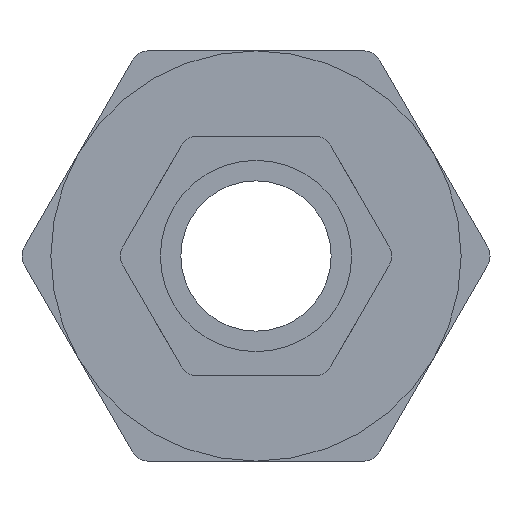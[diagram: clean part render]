
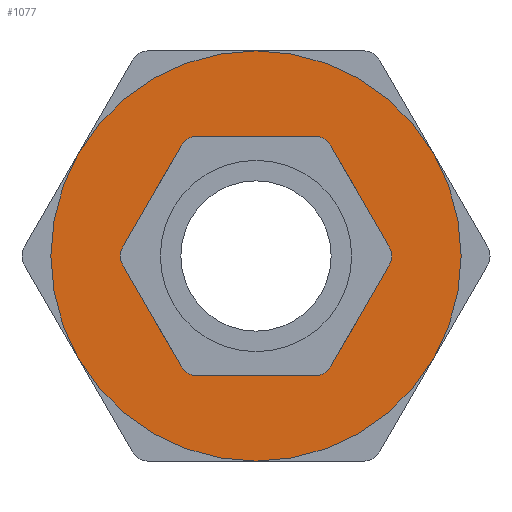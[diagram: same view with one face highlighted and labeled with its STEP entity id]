
A CAD part, left-side view. The second image highlights one B-rep face of the part: STEP entity #1077.
In plain terms, the highlighted planar face has unit normal (-1, 0, 0).
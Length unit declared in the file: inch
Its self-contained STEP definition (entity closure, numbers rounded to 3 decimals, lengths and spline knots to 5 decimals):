
#14=FACE_BOUND('',#184,.T.);
#62=CIRCLE('',#1176,1.125);
#63=CIRCLE('',#1177,0.6575);
#124=FACE_OUTER_BOUND('',#183,.T.);
#183=EDGE_LOOP('',(#738));
#184=EDGE_LOOP('',(#739));
#439=VERTEX_POINT('',#1695);
#440=VERTEX_POINT('',#1697);
#556=EDGE_CURVE('',#439,#439,#62,.T.);
#557=EDGE_CURVE('',#440,#440,#63,.T.);
#738=ORIENTED_EDGE('',*,*,#556,.T.);
#739=ORIENTED_EDGE('',*,*,#557,.F.);
#975=PLANE('',#1175);
#1077=ADVANCED_FACE('',(#124,#14),#975,.T.);
#1175=AXIS2_PLACEMENT_3D('',#1694,#1366,#1367);
#1176=AXIS2_PLACEMENT_3D('',#1696,#1368,#1369);
#1177=AXIS2_PLACEMENT_3D('',#1698,#1370,#1371);
#1366=DIRECTION('center_axis',(-1.,0.,0.));
#1367=DIRECTION('ref_axis',(0.,0.,1.));
#1368=DIRECTION('center_axis',(-1.,0.,0.));
#1369=DIRECTION('ref_axis',(0.,0.,-1.));
#1370=DIRECTION('center_axis',(-1.,0.,0.));
#1371=DIRECTION('ref_axis',(0.,1.,0.));
#1694=CARTESIAN_POINT('Origin',(0.55,0.,
0.));
#1695=CARTESIAN_POINT('',(0.55,0.,1.125));
#1696=CARTESIAN_POINT('Origin',(0.55,0.,
0.));
#1697=CARTESIAN_POINT('',(0.55,-0.6575,0.));
#1698=CARTESIAN_POINT('Origin',(0.55,0.,
0.));
